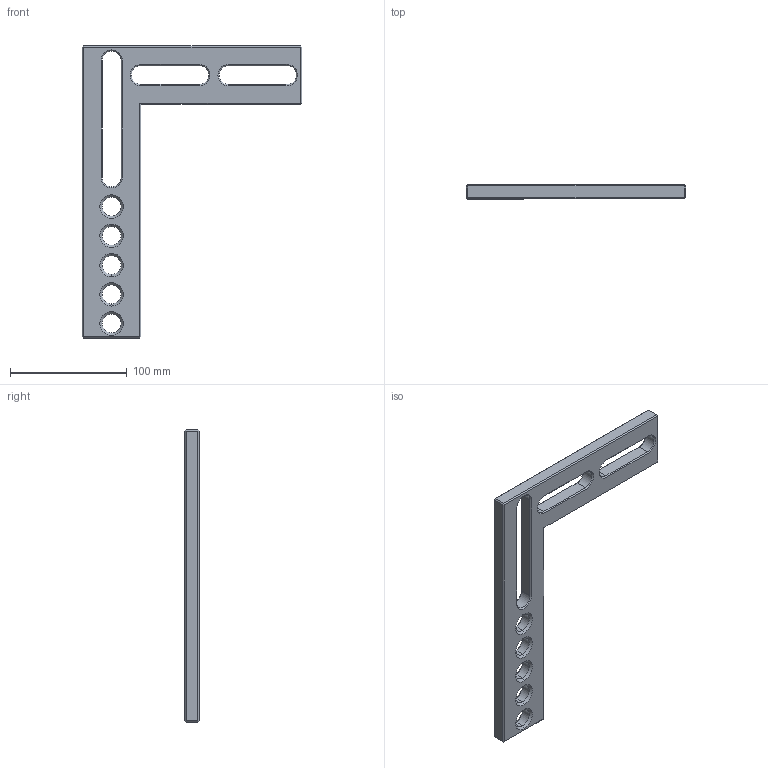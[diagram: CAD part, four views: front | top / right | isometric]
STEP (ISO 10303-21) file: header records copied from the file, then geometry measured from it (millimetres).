
FILE_DESCRIPTION (( 'STEP AP203' ), '1' );
FILE_NAME ('160444.step', '2014-08-11T15:59:48', ( 'User' ), ( '' ), 'SwSTEP 2.0', 'SolidWorks 2014', '' );
FILE_SCHEMA (( 'CONFIG_CONTROL_DESIGN' ));
Length unit declared in the file: millimetre
Products named in the file (1): 160444
Bounding box: 187.5 x 12 x 250 mm (x, y, z)
Volume: 171763.6 mm3; surface area: 46966 mm2
Topology: 1 solids, 1 shells, 104 faces, 229 edges, 127 vertices
Faces by surface type: plane 53, cone 34, cylinder 17
Entity records: 2875 total; most frequent: DIRECTION 508, CARTESIAN_POINT 461, ORIENTED_EDGE 458, EDGE_CURVE 229, AXIS2_PLACEMENT_3D 174, VECTOR 160, LINE 160, VERTEX_POINT 127
